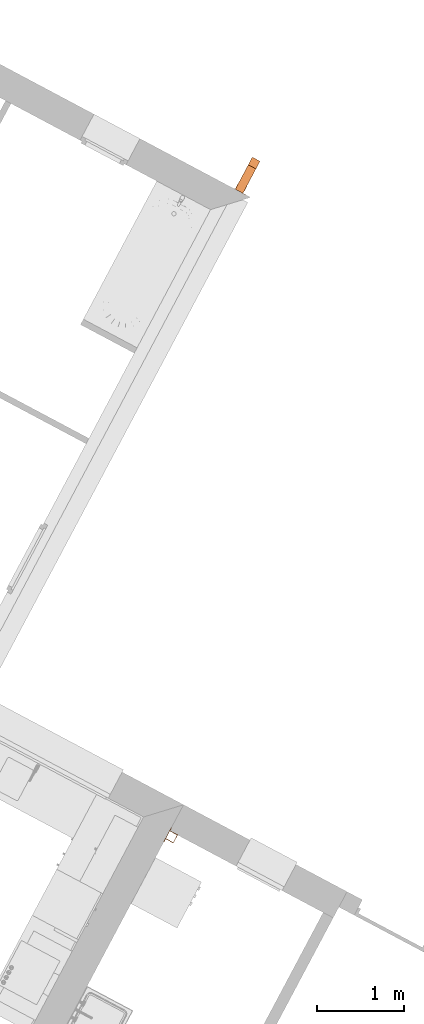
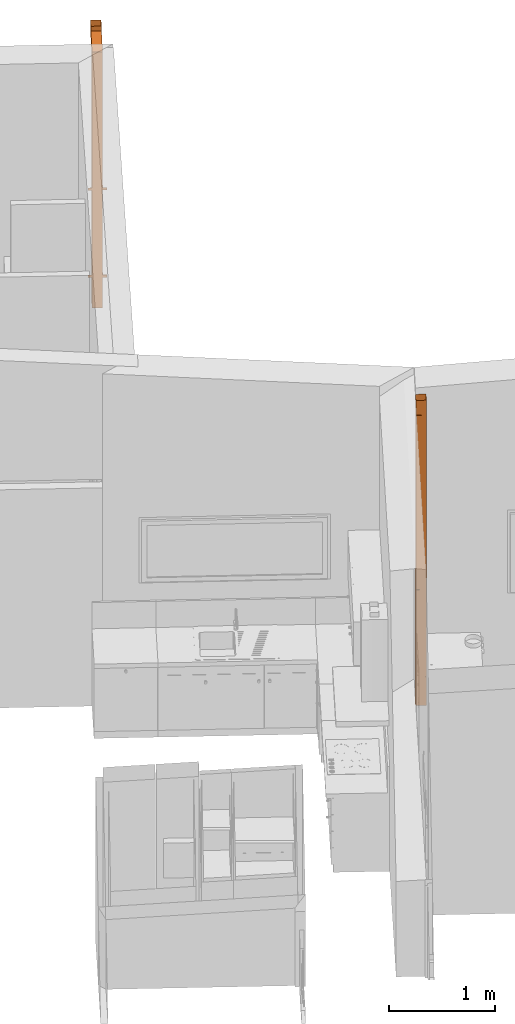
# One storey, part 17 of 27: 2 proxies.
"""IFC2X3 building model written with IfcOpenShell, lengths in metres."""

from ifc_helpers import new_model, entity, si_unit, converted_unit, derived_unit, money_unit, direction, frame, origin_with_axes, place, context, subcontext, project, spatial, open_shell, faceted_brep, surface_model, source, transform, mapped, type_object, element, save


model = new_model("IFC2X3")

# Units and contexts
model_context = context("Model", 3, precision=1e-05, world=origin_with_axes(), true_north=direction((0.0, 1.0)))
body_context = subcontext(model_context, "Body", "Model", "MODEL_VIEW")
ifc_project = project(units=[si_unit("LENGTHUNIT", "METRE"), si_unit("AREAUNIT", "SQUARE_METRE"), si_unit("VOLUMEUNIT", "CUBIC_METRE"), converted_unit("PLANEANGLEUNIT", "DEGREE", entity("IfcPlaneAngleMeasure", 0.0174532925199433), si_unit("PLANEANGLEUNIT", "RADIAN"), dimensions=[0, 0, 0, 0, 0, 0, 0]), money_unit("CHF"), converted_unit("TIMEUNIT", "Year", entity("IfcTimeMeasure", 31557600.0), si_unit("TIMEUNIT", "SECOND"), dimensions=[0, 0, 1, 0, 0, 0, 0]), si_unit("MASSUNIT", "GRAM", prefix="KILO"), si_unit("THERMODYNAMICTEMPERATUREUNIT", "DEGREE_CELSIUS"), si_unit("LUMINOUSINTENSITYUNIT", "LUMEN"), si_unit("ENERGYUNIT", "JOULE", prefix="MEGA"), derived_unit("THERMALCONDUCTANCEUNIT", [(si_unit("POWERUNIT", "WATT"), 1), (si_unit("LENGTHUNIT", "METRE"), -1), (si_unit("THERMODYNAMICTEMPERATUREUNIT", "KELVIN"), -1)]), derived_unit("SPECIFICHEATCAPACITYUNIT", [(si_unit("ENERGYUNIT", "JOULE"), 1), (si_unit("MASSUNIT", "GRAM", prefix="KILO"), -1), (si_unit("THERMODYNAMICTEMPERATUREUNIT", "KELVIN"), -1)]), derived_unit("MASSDENSITYUNIT", [(si_unit("MASSUNIT", "GRAM", prefix="KILO"), 1), (si_unit("VOLUMEUNIT", "CUBIC_METRE"), -1)])], contexts=[model_context])

# Site, building, storey
site_placement = place(None, frame((0.0, 0.0, 0.0), z_axis=(0.0, 0.0, 1.0), x_axis=(-0.4694715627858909, -0.8829475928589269, 0.0)))
site = spatial("IfcSite", under=ifc_project, at=site_placement, Name="Site", CompositionType="ELEMENT")
building_placement = place(site_placement, origin_with_axes())
building = spatial("IfcBuilding", under=site, at=building_placement, Name="Bâtiment", CompositionType="ELEMENT")
storey_placement = place(building_placement, origin_with_axes())
storey = spatial("IfcBuildingStorey", under=building, at=storey_placement, Name="RDC", CompositionType="ELEMENT", Elevation=0.0)

# Proxies
building_element_proxy_type_1 = type_object("IfcBuildingElementProxyType", Name="Tuyau descente 27", PredefinedType="NOTDEFINED")
shared_shape_1 = source(origin_with_axes(), body_context, "Body", "SurfaceModel", [
    surface_model("IfcShellBasedSurfaceModel", [(-0.05, -0.05, 3.5), (-0.05, 0.05, 3.5), (-0.05, 0.05, 0.0), (-0.05, -0.05, 0.0), (0.05, 0.05, 3.5), (0.05, 0.05, 0.0), (0.05, -0.05, 3.5), (0.05, -0.05, 0.0)], [open_shell([[[0, 1, 2, 3]], [[1, 4, 5, 2]], [[6, 0, 3, 7]], [[4, 6, 7, 5]]])]),
    faceted_brep([(-0.09, 0.0479, 0.3), (-0.052, 0.0479, 0.3), (-0.052, 0.0479, 0.33), (-0.09, 0.0479, 0.33), (-0.09, 0.0499, 0.3), (-0.0502, 0.0499, 0.3), (-0.0502, -0.0503, 0.3), (0.0502, -0.0503, 0.3), (0.0502, 0.0499, 0.3), (0.09, 0.0499, 0.3), (0.09, 0.0479, 0.3), (0.052, 0.0479, 0.3), (0.052, -0.05210000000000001, 0.3), (-0.052, -0.05210000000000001, 0.3), (-0.052, -0.05210000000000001, 0.33), (0.052, -0.05210000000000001, 0.33), (0.052, 0.0479, 0.33), (0.09, 0.0479, 0.33), (0.09, 0.0499, 0.33), (0.0502, 0.0499, 0.33), (0.0502, -0.0503, 0.33), (-0.0502, -0.0503, 0.33), (-0.0502, 0.0499, 0.33), (-0.09, 0.0499, 0.33)], [[[0, 1, 2, 3]], [[0, 4, 5, 6, 7, 8, 9, 10, 11, 12, 13, 1]], [[1, 13, 14, 2]], [[3, 2, 14, 15, 16, 17, 18, 19, 20, 21, 22, 23]], [[4, 0, 3, 23]], [[5, 4, 23, 22]], [[6, 5, 22, 21]], [[7, 6, 21, 20]], [[8, 7, 20, 19]], [[9, 8, 19, 18]], [[10, 9, 18, 17]], [[11, 10, 17, 16]], [[12, 11, 16, 15]], [[13, 12, 15, 14]]]),
    faceted_brep([(-0.09, 0.0479, 1.3), (-0.052, 0.0479, 1.3), (-0.052, 0.0479, 1.33), (-0.09, 0.0479, 1.33), (-0.09, 0.0499, 1.3), (-0.0502, 0.0499, 1.3), (-0.0502, -0.0503, 1.3), (0.0502, -0.0503, 1.3), (0.0502, 0.0499, 1.3), (0.09, 0.0499, 1.3), (0.09, 0.0479, 1.3), (0.052, 0.0479, 1.3), (0.052, -0.05210000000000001, 1.3), (-0.052, -0.05210000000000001, 1.3), (-0.052, -0.05210000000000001, 1.33), (0.052, -0.05210000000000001, 1.33), (0.052, 0.0479, 1.33), (0.09, 0.0479, 1.33), (0.09, 0.0499, 1.33), (0.0502, 0.0499, 1.33), (0.0502, -0.0503, 1.33), (-0.0502, -0.0503, 1.33), (-0.0502, 0.0499, 1.33), (-0.09, 0.0499, 1.33)], [[[0, 1, 2, 3]], [[0, 4, 5, 6, 7, 8, 9, 10, 11, 12, 13, 1]], [[1, 13, 14, 2]], [[3, 2, 14, 15, 16, 17, 18, 19, 20, 21, 22, 23]], [[4, 0, 3, 23]], [[5, 4, 23, 22]], [[6, 5, 22, 21]], [[7, 6, 21, 20]], [[8, 7, 20, 19]], [[9, 8, 19, 18]], [[10, 9, 18, 17]], [[11, 10, 17, 16]], [[12, 11, 16, 15]], [[13, 12, 15, 14]]]),
    faceted_brep([(-0.09, 0.0479, 2.3), (-0.052, 0.0479, 2.3), (-0.052, 0.0479, 2.33), (-0.09, 0.0479, 2.33), (-0.09, 0.0499, 2.3), (-0.0502, 0.0499, 2.3), (-0.0502, -0.0503, 2.3), (0.0502, -0.0503, 2.3), (0.0502, 0.0499, 2.3), (0.09, 0.0499, 2.3), (0.09, 0.0479, 2.3), (0.052, 0.0479, 2.3), (0.052, -0.05210000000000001, 2.3), (-0.052, -0.05210000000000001, 2.3), (-0.052, -0.05210000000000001, 2.33), (0.052, -0.05210000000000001, 2.33), (0.052, 0.0479, 2.33), (0.09, 0.0479, 2.33), (0.09, 0.0499, 2.33), (0.0502, 0.0499, 2.33), (0.0502, -0.0503, 2.33), (-0.0502, -0.0503, 2.33), (-0.0502, 0.0499, 2.33), (-0.09, 0.0499, 2.33)], [[[0, 1, 2, 3]], [[0, 4, 5, 6, 7, 8, 9, 10, 11, 12, 13, 1]], [[1, 13, 14, 2]], [[3, 2, 14, 15, 16, 17, 18, 19, 20, 21, 22, 23]], [[4, 0, 3, 23]], [[5, 4, 23, 22]], [[6, 5, 22, 21]], [[7, 6, 21, 20]], [[8, 7, 20, 19]], [[9, 8, 19, 18]], [[10, 9, 18, 17]], [[11, 10, 17, 16]], [[12, 11, 16, 15]], [[13, 12, 15, 14]]]),
    faceted_brep([(-0.09, 0.0479, 3.3), (-0.052, 0.0479, 3.3), (-0.052, 0.0479, 3.33), (-0.09, 0.0479, 3.33), (-0.09, 0.0499, 3.3), (-0.0502, 0.0499, 3.3), (-0.0502, -0.0503, 3.3), (0.0502, -0.0503, 3.3), (0.0502, 0.0499, 3.3), (0.09, 0.0499, 3.3), (0.09, 0.0479, 3.3), (0.052, 0.0479, 3.3), (0.052, -0.05210000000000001, 3.3), (-0.052, -0.05210000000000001, 3.3), (-0.052, -0.05210000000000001, 3.33), (0.052, -0.05210000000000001, 3.33), (0.052, 0.0479, 3.33), (0.09, 0.0479, 3.33), (0.09, 0.0499, 3.33), (0.0502, 0.0499, 3.33), (0.0502, -0.0503, 3.33), (-0.0502, -0.0503, 3.33), (-0.0502, 0.0499, 3.33), (-0.09, 0.0499, 3.33)], [[[0, 1, 2, 3]], [[0, 4, 5, 6, 7, 8, 9, 10, 11, 12, 13, 1]], [[1, 13, 14, 2]], [[3, 2, 14, 15, 16, 17, 18, 19, 20, 21, 22, 23]], [[4, 0, 3, 23]], [[5, 4, 23, 22]], [[6, 5, 22, 21]], [[7, 6, 21, 20]], [[8, 7, 20, 19]], [[9, 8, 19, 18]], [[10, 9, 18, 17]], [[11, 10, 17, 16]], [[12, 11, 16, 15]], [[13, 12, 15, 14]]]),
])
proxy_1_placement = place(storey_placement, frame((134.0795710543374, -828.64459910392, 0.0), z_axis=(0.0, 0.0, 1.0), x_axis=(-1.0, 0.0, 0.0)))
element("IfcBuildingElementProxy", 1, at=proxy_1_placement, inside=storey, type_object=building_element_proxy_type_1, Name="Obj.-486", context=body_context, shape_type="MappedRepresentation", body=[
    mapped(shared_shape_1, transform((0.0, 0.0, 0.0))),
])
building_element_proxy_type_2 = type_object("IfcBuildingElementProxyType", Name="Tuyau descente complexe 27", PredefinedType="NOTDEFINED")
shared_shape_2 = source(origin_with_axes(), body_context, "Body", "SurfaceModel", [
    surface_model("IfcShellBasedSurfaceModel", [(0.05000000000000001, 0.05, 0.25), (0.05, -0.05000000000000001, 0.25), (0.05, -0.05000000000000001, 0.15), (0.05, -0.05000000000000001, 0.0), (0.05000000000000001, 0.05, 0.0), (0.05000000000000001, 0.05, 0.15), (-0.05000000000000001, -0.05, 0.25), (-0.05000000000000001, -0.05, 0.15), (-0.05000000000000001, -0.05, 0.0), (-0.05, 0.05000000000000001, 0.25), (-0.05, 0.05000000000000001, 0.0), (-0.05, 0.05000000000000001, 0.15)], [open_shell([[[0, 1, 2, 3, 4, 5]], [[1, 6, 7, 8, 3, 2]], [[9, 0, 5, 4, 10, 11]], [[6, 9, 11, 10, 8, 7]]])]),
    surface_model("IfcShellBasedSurfaceModel", [(-0.05, -0.05, 2.20857864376), (-0.05, 0.05, 2.20857864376), (-0.05, 0.05, 0.25), (-0.05, -0.05, 0.25), (0.05, 0.05, 2.20857864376), (0.05, 0.05, 0.25), (0.05, -0.05, 2.20857864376), (0.05, -0.05, 0.25)], [open_shell([[[0, 1, 2, 3]], [[1, 4, 5, 2]], [[6, 0, 3, 7]], [[4, 6, 7, 5]]])]),
    faceted_brep([(-0.09, 0.0479, 0.35), (-0.052, 0.0479, 0.35), (-0.052, 0.0479, 0.38), (-0.09, 0.0479, 0.38), (-0.09, 0.0499, 0.35), (-0.0502, 0.0499, 0.35), (-0.0502, -0.0503, 0.35), (0.0502, -0.0503, 0.35), (0.0502, 0.0499, 0.35), (0.09, 0.0499, 0.35), (0.09, 0.0479, 0.35), (0.052, 0.0479, 0.35), (0.052, -0.05210000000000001, 0.35), (-0.052, -0.05210000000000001, 0.35), (-0.052, -0.05210000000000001, 0.38), (0.052, -0.05210000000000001, 0.38), (0.052, 0.0479, 0.38), (0.09, 0.0479, 0.38), (0.09, 0.0499, 0.38), (0.0502, 0.0499, 0.38), (0.0502, -0.0503, 0.38), (-0.0502, -0.0503, 0.38), (-0.0502, 0.0499, 0.38), (-0.09, 0.0499, 0.38)], [[[0, 1, 2, 3]], [[0, 4, 5, 6, 7, 8, 9, 10, 11, 12, 13, 1]], [[1, 13, 14, 2]], [[3, 2, 14, 15, 16, 17, 18, 19, 20, 21, 22, 23]], [[4, 0, 3, 23]], [[5, 4, 23, 22]], [[6, 5, 22, 21]], [[7, 6, 21, 20]], [[8, 7, 20, 19]], [[9, 8, 19, 18]], [[10, 9, 18, 17]], [[11, 10, 17, 16]], [[12, 11, 16, 15]], [[13, 12, 15, 14]]]),
    faceted_brep([(-0.09, 0.0479, 1.35), (-0.052, 0.0479, 1.35), (-0.052, 0.0479, 1.38), (-0.09, 0.0479, 1.38), (-0.09, 0.0499, 1.35), (-0.0502, 0.0499, 1.35), (-0.0502, -0.0503, 1.35), (0.0502, -0.0503, 1.35), (0.0502, 0.0499, 1.35), (0.09, 0.0499, 1.35), (0.09, 0.0479, 1.35), (0.052, 0.0479, 1.35), (0.052, -0.05210000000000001, 1.35), (-0.052, -0.05210000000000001, 1.35), (-0.052, -0.05210000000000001, 1.38), (0.052, -0.05210000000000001, 1.38), (0.052, 0.0479, 1.38), (0.09, 0.0479, 1.38), (0.09, 0.0499, 1.38), (0.0502, 0.0499, 1.38), (0.0502, -0.0503, 1.38), (-0.0502, -0.0503, 1.38), (-0.0502, 0.0499, 1.38), (-0.09, 0.0499, 1.38)], [[[0, 1, 2, 3]], [[0, 4, 5, 6, 7, 8, 9, 10, 11, 12, 13, 1]], [[1, 13, 14, 2]], [[3, 2, 14, 15, 16, 17, 18, 19, 20, 21, 22, 23]], [[4, 0, 3, 23]], [[5, 4, 23, 22]], [[6, 5, 22, 21]], [[7, 6, 21, 20]], [[8, 7, 20, 19]], [[9, 8, 19, 18]], [[10, 9, 18, 17]], [[11, 10, 17, 16]], [[12, 11, 16, 15]], [[13, 12, 15, 14]]]),
    surface_model("IfcShellBasedSurfaceModel", [(0.05000000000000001, -0.2688982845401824, 3.00857864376), (0.05, -0.3688982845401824, 3.00857864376), (0.05, -0.3688982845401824, 2.861712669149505), (0.05000000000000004, -0.04999999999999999, 2.841055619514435), (0.05000000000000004, -0.04999999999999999, 2.20857864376), (0.05000000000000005, 0.04999999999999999, 2.20857864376), (0.05000000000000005, 0.04999999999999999, 2.934787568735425), (0.05000000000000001, -0.2688982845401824, 2.955444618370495), (-0.05000000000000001, -0.3688982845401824, 3.00857864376), (-0.05000000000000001, -0.3688982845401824, 2.861712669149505), (-0.04999999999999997, -0.04999999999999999, 2.841055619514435), (-0.04999999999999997, -0.04999999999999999, 2.20857864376), (-0.04999999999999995, 0.04999999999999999, 2.934787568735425), (-0.04999999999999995, 0.04999999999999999, 2.20857864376), (-0.05, -0.2688982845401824, 2.955444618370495), (-0.05, -0.2688982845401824, 3.00857864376)], [open_shell([[[0, 1, 2, 3, 4, 5, 6, 7]], [[1, 8, 9, 2]], [[2, 9, 10, 3]], [[3, 10, 11, 4]], [[12, 6, 5, 13]], [[14, 7, 6, 12]], [[15, 0, 7, 14]], [[8, 15, 14, 12, 13, 11, 10, 9]]])]),
])
proxy_2_placement = place(storey_placement, frame((127.1095710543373, -831.443619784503, -0.25209940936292), z_axis=(0.0, 0.0, 1.0), x_axis=(0.0, -1.0, 0.0)))
element("IfcBuildingElementProxy", 2, at=proxy_2_placement, inside=storey, type_object=building_element_proxy_type_2, Name="Obj.-486", context=body_context, shape_type="MappedRepresentation", body=[
    mapped(shared_shape_2, transform((0.0, 0.0, 0.0))),
])

save(model, "model.ifc")
